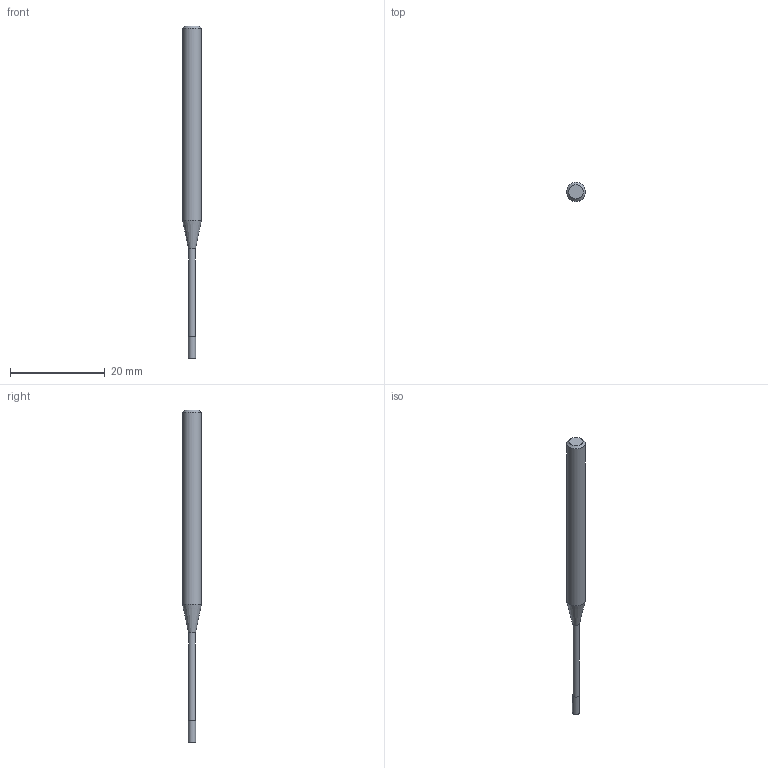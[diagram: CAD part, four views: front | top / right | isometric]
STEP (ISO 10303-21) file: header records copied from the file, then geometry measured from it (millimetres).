
FILE_DESCRIPTION((''),'2;1');
FILE_NAME('C:\Users\nsx150\Desktop\RSE230_20210427\01-00644-01523 RSE230 D1_5X4_5X23.step','2021-05-07T14:53:31',(''),(''),'STEP Write','Mastercam 2021 ... CNC Software, Inc.','');
FILE_SCHEMA(('AUTOMOTIVE_DESIGN'));
Length unit declared in the file: millimetre
Products named in the file (1): None
Bounding box: 4 x 4 x 70 mm (x, y, z)
Volume: 589.8 mm3; surface area: 687 mm2
Topology: 2 solids, 2 shells, 9 faces, 12 edges, 7 vertices
Faces by surface type: plane 4, cylinder 3, cone 2
Full cylindrical faces by diameter (mm): 1.45 x1, 1.5 x1, 4 x1
Entity records: 211 total; most frequent: DIRECTION 36, CARTESIAN_POINT 25, AXIS2_PLACEMENT_3D 18, ORIENTED_EDGE 14, EDGE_LOOP 14, STYLED_ITEM 12, ADVANCED_FACE 9, FACE_BOUND 8
